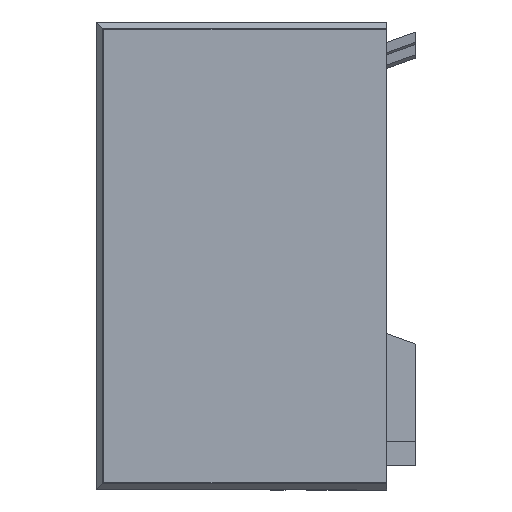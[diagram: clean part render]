
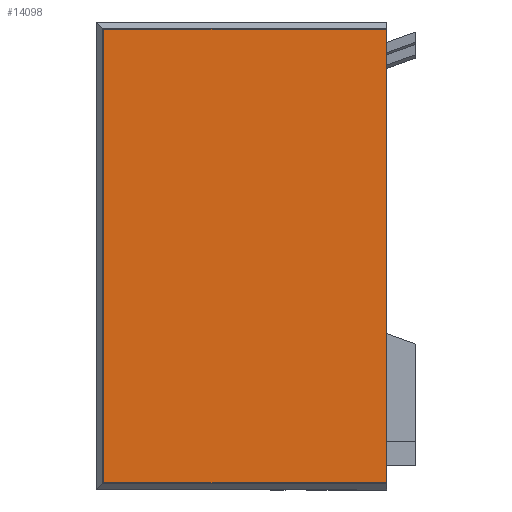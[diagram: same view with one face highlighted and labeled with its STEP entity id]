
A CAD part, left-side view. The second image highlights one B-rep face of the part: STEP entity #14098.
In plain terms, the highlighted planar face has unit normal (-1, 0, 0) as drawn and (0, 0, -1) by its records, which use the part's own axes.
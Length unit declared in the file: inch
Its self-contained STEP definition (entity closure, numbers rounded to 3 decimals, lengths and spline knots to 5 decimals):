
#3412=FACE_OUTER_BOUND('',#4261,.T.);
#4261=EDGE_LOOP('',(#12740,#12741,#12742,#12743));
#5463=LINE('',#24695,#6712);
#5464=LINE('',#24697,#6713);
#5465=LINE('',#24699,#6714);
#5466=LINE('',#24700,#6715);
#6712=VECTOR('',#20083,0.3937);
#6713=VECTOR('',#20084,0.3937);
#6714=VECTOR('',#20085,0.3937);
#6715=VECTOR('',#20086,0.3937);
#7757=VERTEX_POINT('',#24693);
#7758=VERTEX_POINT('',#24694);
#7759=VERTEX_POINT('',#24696);
#7760=VERTEX_POINT('',#24698);
#9431=EDGE_CURVE('',#7757,#7758,#5463,.T.);
#9432=EDGE_CURVE('',#7759,#7757,#5464,.T.);
#9433=EDGE_CURVE('',#7759,#7760,#5465,.T.);
#9434=EDGE_CURVE('',#7758,#7760,#5466,.T.);
#12740=ORIENTED_EDGE('',*,*,#9431,.F.);
#12741=ORIENTED_EDGE('',*,*,#9432,.F.);
#12742=ORIENTED_EDGE('',*,*,#9433,.T.);
#12743=ORIENTED_EDGE('',*,*,#9434,.F.);
#13273=PLANE('',#16143);
#14098=ADVANCED_FACE('',(#3412),#13273,.F.);
#16143=AXIS2_PLACEMENT_3D('',#24692,#20081,#20082);
#20081=DIRECTION('center_axis',(0.,0.,1.));
#20082=DIRECTION('ref_axis',(1.,0.,0.));
#20083=DIRECTION('',(0.,1.,0.));
#20084=DIRECTION('',(1.,0.,0.));
#20085=DIRECTION('',(0.,1.,0.));
#20086=DIRECTION('',(-1.,0.,0.));
#24692=CARTESIAN_POINT('Origin',(48.375,30.,0.));
#24693=CARTESIAN_POINT('',(95.25,0.,0.));
#24694=CARTESIAN_POINT('',(95.25,58.5,0.));
#24695=CARTESIAN_POINT('',(95.25,0.,0.));
#24696=CARTESIAN_POINT('',(1.5,0.,0.));
#24697=CARTESIAN_POINT('',(0.,0.,0.));
#24698=CARTESIAN_POINT('',(1.5,58.5,0.));
#24699=CARTESIAN_POINT('',(1.5,0.,0.));
#24700=CARTESIAN_POINT('',(24.9375,58.5,0.));
